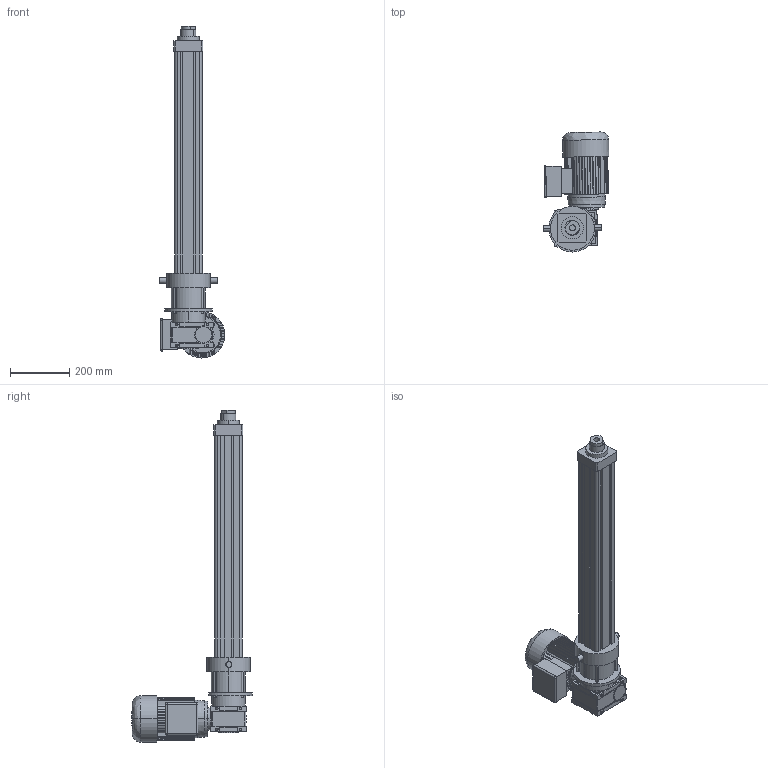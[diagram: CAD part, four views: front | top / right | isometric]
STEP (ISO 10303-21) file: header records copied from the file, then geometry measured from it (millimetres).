
FILE_DESCRIPTION (( 'STEP AP214' ), '1' );
FILE_NAME ('Ass RV80 BI C600.STEP', '2017-01-03T16:21:18', ( 'Hubert' ), ( '' ), 'SwSTEP 2.0', 'SolidWorks 2014', '' );
FILE_SCHEMA (( 'AUTOMOTIVE_DESIGN' ));
Length unit declared in the file: millimetre
Products named in the file (9): _CHM_50_FC_2_7,5_80_B14_B3.3d; Tube MR 80 BI C600; PAAV 80 D; Profilé MRRV80 BI C600; Vis MRRV80 BI C600; PAAR RV 80 B160; Ass RV80 BI C600; Ass CHM50_FC MOT 80 F; _AT_80_B_2_1,10_B14_F_230-400-50_DC-S.3d
Assembly tree (8 placements, depth 3):
  Ass RV80 BI C600
    PAAR RV 80 B160
    Vis MRRV80 BI C600
    Profilé MRRV80 BI C600
    PAAV 80 D
    Tube MR 80 BI C600
    Ass CHM50_FC MOT 80 F
      _CHM_50_FC_2_7,5_80_B14_B3.3d
      _AT_80_B_2_1,10_B14_F_230-400-50_DC-S.3d
Bounding box: 222.75 x 405.79 x 1122 mm (x, y, z)
Volume: 10009355.1 mm3; surface area: 1632113.2 mm2
Topology: 7 solids, 11 shells, 833 faces, 2164 edges, 1391 vertices
Faces by surface type: plane 422, cylinder 382, cone 22, bspline 7
Entity records: 34432 total; most frequent: CARTESIAN_POINT 4908, DIRECTION 4660, ORIENTED_EDGE 4288, EDGE_CURVE 2144, AXIS2_PLACEMENT_3D 1689, VERTEX_POINT 1391, LINE 1282, VECTOR 1282
